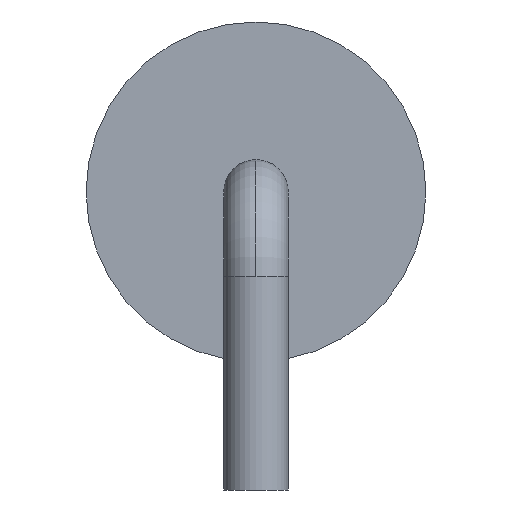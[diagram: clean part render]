
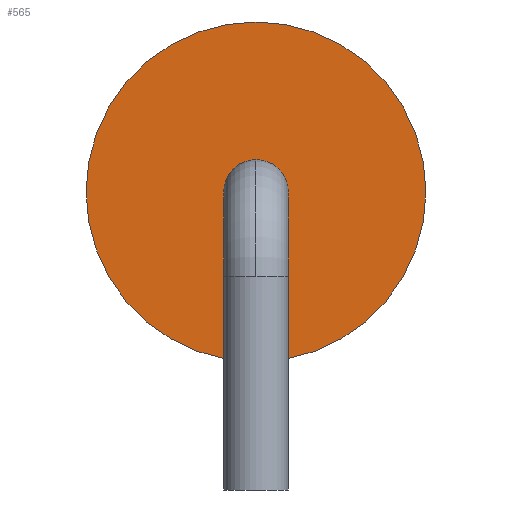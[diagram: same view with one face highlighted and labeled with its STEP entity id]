
A CAD part, left-side view. The second image highlights one B-rep face of the part: STEP entity #565.
In plain terms, the highlighted planar face has unit normal (-1, 0, 0).
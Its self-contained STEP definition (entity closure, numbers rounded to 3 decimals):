
#519 = CARTESIAN_POINT ( 'NONE',  ( -4.75, 2.65, 2.65 ) ) ;
#520 = VERTEX_POINT ( 'NONE', #519 ) ;
#527 = CARTESIAN_POINT ( 'NONE',  ( -4.75, -2.65, 2.65 ) ) ;
#528 = VERTEX_POINT ( 'NONE', #527 ) ;
#529 = CARTESIAN_POINT ( 'NONE',  ( -4.75, 0., 2.65 ) ) ;
#530 = DIRECTION ( 'NONE',  ( -1., 0., 0. ) ) ;
#531 = DIRECTION ( 'NONE',  ( 0., -1., 0. ) ) ;
#532 = AXIS2_PLACEMENT_3D ( 'NONE', #529, #530, #531 ) ;
#533 = CIRCLE ( 'NONE', #532, 2.65) ;
#534 = EDGE_CURVE ( 'NONE', #528, #520, #533, .T. ) ;
#550 = ORIENTED_EDGE ( 'NONE', *, *, #534, .T. ) ;
#551 = CARTESIAN_POINT ( 'NONE',  ( -4.75, 0., 2.65 ) ) ;
#552 = DIRECTION ( 'NONE',  ( -1., 0., 0. ) ) ;
#553 = DIRECTION ( 'NONE',  ( 0., -1., 0. ) ) ;
#554 = AXIS2_PLACEMENT_3D ( 'NONE', #551, #552, #553 ) ;
#555 = CIRCLE ( 'NONE', #554, 2.65) ;
#556 = EDGE_CURVE ( 'NONE', #520, #528, #555, .T. ) ;
#557 = ORIENTED_EDGE ( 'NONE', *, *, #556, .T. ) ;
#558 = EDGE_LOOP ( 'NONE', ( #550, #557 ) ) ;
#559 = FACE_OUTER_BOUND ( 'NONE', #558, .T. ) ;
#560 = CARTESIAN_POINT ( 'NONE',  ( -4.75, 0., 2.65 ) ) ;
#561 = DIRECTION ( 'NONE',  ( 1., 0., 0. ) ) ;
#562 = DIRECTION ( 'NONE',  ( 0., 1., 0. ) ) ;
#563 = AXIS2_PLACEMENT_3D ( 'NONE', #560, #561, #562 ) ;
#564 = PLANE ( 'NONE', #563 ) ;
#565 = ADVANCED_FACE ( 'NONE', ( #559 ), #564, .F. ) ;
